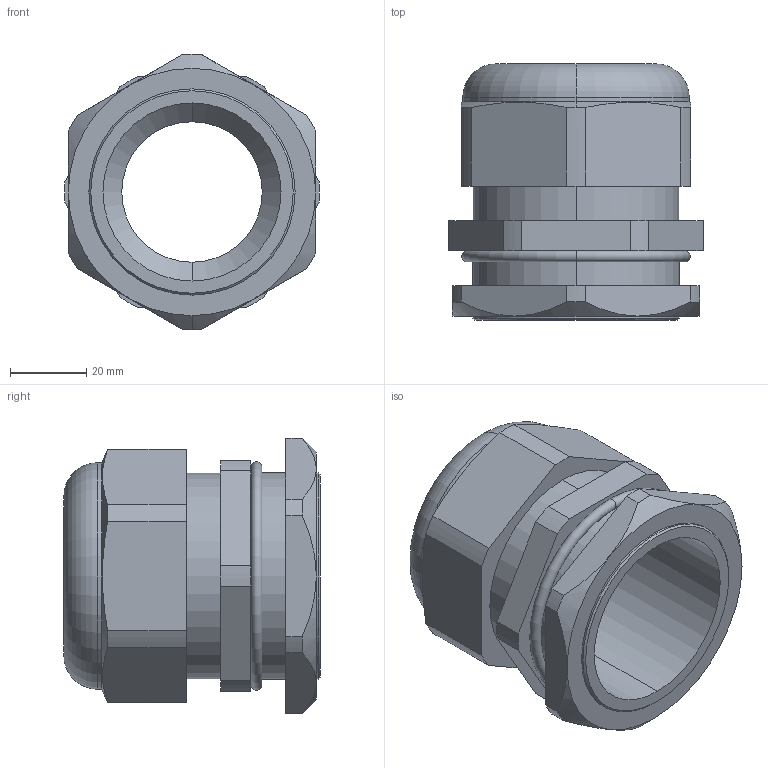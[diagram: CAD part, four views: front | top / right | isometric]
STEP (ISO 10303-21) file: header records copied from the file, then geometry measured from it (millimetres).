
FILE_DESCRIPTION (( 'STEP AP203' ), '1' );
FILE_NAME ('CH-PG42.STEP', '2018-02-07T14:34:52', ( '' ), ( '' ), 'SwSTEP 2.0', 'SolidWorks 2012', '' );
FILE_SCHEMA (( 'CONFIG_CONTROL_DESIGN' ));
Length unit declared in the file: millimetre
Products named in the file (1): CH-PG42
Bounding box: 66.98 x 67.35 x 72.44 mm (x, y, z)
Volume: 95701.3 mm3; surface area: 29656.2 mm2
Topology: 1 solids, 1 shells, 78 faces, 189 edges, 118 vertices
Faces by surface type: cylinder 34, plane 25, cone 15, torus 4
Entity records: 2490 total; most frequent: CARTESIAN_POINT 544, DIRECTION 415, ORIENTED_EDGE 378, EDGE_CURVE 189, AXIS2_PLACEMENT_3D 165, VERTEX_POINT 118, CIRCLE 86, VECTOR 85
